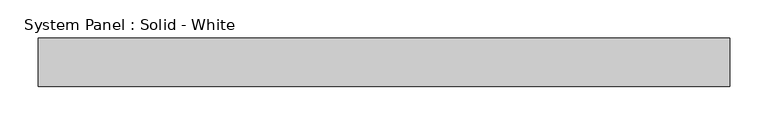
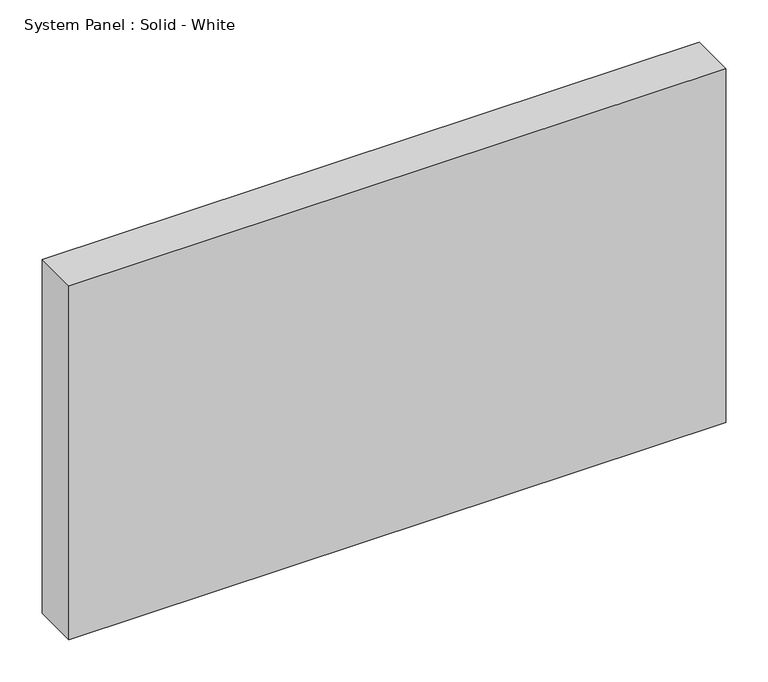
"""IFC4 building model written with IfcOpenShell, lengths in millimetres: plate geometry, System Panel : Solid - White."""

from ifc_helpers import new_model, si_unit, origin, origin_with_axes, place, context, project, spatial, polyline, outline, extrude, source, transform, mapped, element, save


def system_panel_solid_white_223e5efe(model_context):
    return source(origin(), model_context, "Body", "SweptSolid", [
        extrude(outline(polyline([(451.4628531, -19.05), (-451.4628531, -19.05), (-451.4628531, 44.45), (451.4628531, 44.45), (451.4628531, -19.05)])), origin_with_axes(), (0.0, 0.0, 1.0), 514.35),
    ])


if __name__ == "__main__":
    model = new_model("IFC4")
    model_context = context("Model", 3, world=origin())
    ifc_project = project(units=[si_unit("LENGTHUNIT", "METRE", prefix="MILLI")], contexts=[model_context])
    site = spatial("IfcSite", under=ifc_project)
    building = spatial("IfcBuilding", under=site)
    placement = place(None, origin())
    system_panel_solid_white_shape = system_panel_solid_white_223e5efe(model_context)
    element("IfcPlate", 1, ObjectType="System Panel : Solid - White", at=placement, inside=building, context=model_context, shape_type="MappedRepresentation", body=[
        mapped(system_panel_solid_white_shape, transform((0.0, 0.0, 0.0), x_axis=(1.0, 0.0, 0.0), y_axis=(0.0, 1.0, 0.0), z_axis=(0.0, 0.0, 1.0))),
    ])
    save(model, "model.ifc")
